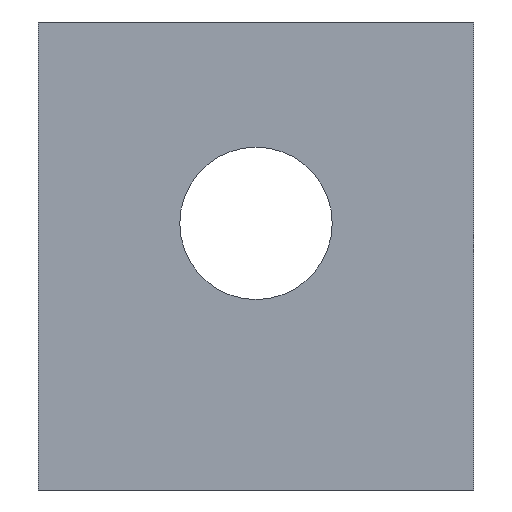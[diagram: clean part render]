
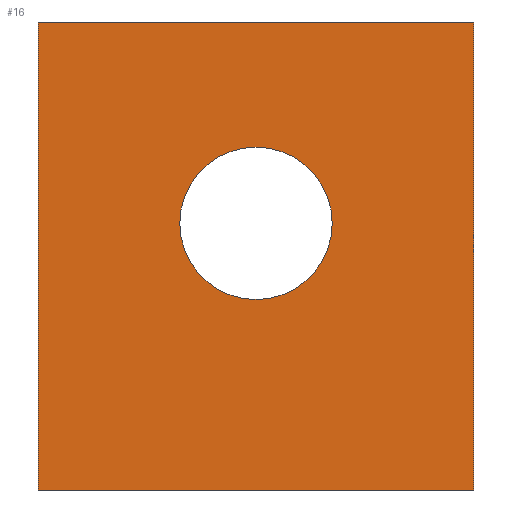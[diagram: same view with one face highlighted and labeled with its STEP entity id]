
A CAD part, front view. The second image highlights one B-rep face of the part: STEP entity #16.
In plain terms, the highlighted planar face has unit normal (0, -1, 0).
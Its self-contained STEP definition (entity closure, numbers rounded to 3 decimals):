
#8 = ORIENTED_EDGE ( 'NONE', *, *, #173, .T. ) ;
#16 = ADVANCED_FACE ( 'NONE', ( #304, #300 ), #180, .T. ) ;
#17 = CARTESIAN_POINT ( 'NONE',  ( 0., 0., 0. ) ) ;
#29 = VERTEX_POINT ( 'NONE', #106 ) ;
#45 = VECTOR ( 'NONE', #140, 1000. ) ;
#51 = VERTEX_POINT ( 'NONE', #299 ) ;
#56 = DIRECTION ( 'NONE',  ( 0., 1., 0. ) ) ;
#58 = ORIENTED_EDGE ( 'NONE', *, *, #134, .F. ) ;
#64 = DIRECTION ( 'NONE',  ( 0., 0., -1. ) ) ;
#65 = ORIENTED_EDGE ( 'NONE', *, *, #154, .F. ) ;
#73 = AXIS2_PLACEMENT_3D ( 'NONE', #252, #226, #247 ) ;
#91 = ORIENTED_EDGE ( 'NONE', *, *, #309, .F. ) ;
#97 = VERTEX_POINT ( 'NONE', #231 ) ;
#104 = VERTEX_POINT ( 'NONE', #114 ) ;
#106 = CARTESIAN_POINT ( 'NONE',  ( 20., 0., -11.5 ) ) ;
#109 = ORIENTED_EDGE ( 'NONE', *, *, #127, .T. ) ;
#112 = LINE ( 'NONE', #115, #45 ) ;
#114 = CARTESIAN_POINT ( 'NONE',  ( 0., 0., 0. ) ) ;
#115 = CARTESIAN_POINT ( 'NONE',  ( 0., 0., 0. ) ) ;
#122 = DIRECTION ( 'NONE',  ( -1., 0., 0. ) ) ;
#123 = DIRECTION ( 'NONE',  ( 0., 1., 0. ) ) ;
#127 = EDGE_CURVE ( 'NONE', #29, #97, #308, .T. ) ;
#134 = EDGE_CURVE ( 'NONE', #104, #297, #274, .T. ) ;
#140 = DIRECTION ( 'NONE',  ( 0., 0., 1. ) ) ;
#144 = CARTESIAN_POINT ( 'NONE',  ( 40., 0., 0. ) ) ;
#154 = EDGE_CURVE ( 'NONE', #51, #104, #112, .T. ) ;
#160 = EDGE_LOOP ( 'NONE', ( #8, #109 ) ) ;
#162 = VECTOR ( 'NONE', #64, 1000. ) ;
#168 = DIRECTION ( 'NONE',  ( 0., 0., 1. ) ) ;
#173 = EDGE_CURVE ( 'NONE', #97, #29, #201, .T. ) ;
#180 = PLANE ( 'NONE',  #73 ) ;
#183 = DIRECTION ( 'NONE',  ( 1., 0., 0. ) ) ;
#189 = CARTESIAN_POINT ( 'NONE',  ( 0., 0., -43. ) ) ;
#191 = CARTESIAN_POINT ( 'NONE',  ( 40., 0., -43. ) ) ;
#192 = AXIS2_PLACEMENT_3D ( 'NONE', #260, #123, #168 ) ;
#197 = AXIS2_PLACEMENT_3D ( 'NONE', #256, #56, #281 ) ;
#200 = LINE ( 'NONE', #189, #218 ) ;
#201 = CIRCLE ( 'NONE', #192, 7. ) ;
#210 = CARTESIAN_POINT ( 'NONE',  ( 40., 0., 0. ) ) ;
#218 = VECTOR ( 'NONE', #122, 1000. ) ;
#226 = DIRECTION ( 'NONE',  ( 0., -1., 0. ) ) ;
#231 = CARTESIAN_POINT ( 'NONE',  ( 20., 0., -25.5 ) ) ;
#247 = DIRECTION ( 'NONE',  ( 0., 0., -1. ) ) ;
#251 = VERTEX_POINT ( 'NONE', #191 ) ;
#252 = CARTESIAN_POINT ( 'NONE',  ( 0., 0., 0. ) ) ;
#253 = VECTOR ( 'NONE', #183, 1000. ) ;
#256 = CARTESIAN_POINT ( 'NONE',  ( 20., 0., -18.5 ) ) ;
#259 = ORIENTED_EDGE ( 'NONE', *, *, #305, .F. ) ;
#260 = CARTESIAN_POINT ( 'NONE',  ( 20., 0., -18.5 ) ) ;
#274 = LINE ( 'NONE', #17, #253 ) ;
#277 = LINE ( 'NONE', #144, #162 ) ;
#281 = DIRECTION ( 'NONE',  ( 0., 0., 1. ) ) ;
#289 = EDGE_LOOP ( 'NONE', ( #65, #91, #259, #58 ) ) ;
#297 = VERTEX_POINT ( 'NONE', #210 ) ;
#299 = CARTESIAN_POINT ( 'NONE',  ( 0., 0., -43. ) ) ;
#300 = FACE_BOUND ( 'NONE', #160, .T. ) ;
#304 = FACE_OUTER_BOUND ( 'NONE', #289, .T. ) ;
#305 = EDGE_CURVE ( 'NONE', #297, #251, #277, .T. ) ;
#308 = CIRCLE ( 'NONE', #197, 7. ) ;
#309 = EDGE_CURVE ( 'NONE', #251, #51, #200, .T. ) ;
